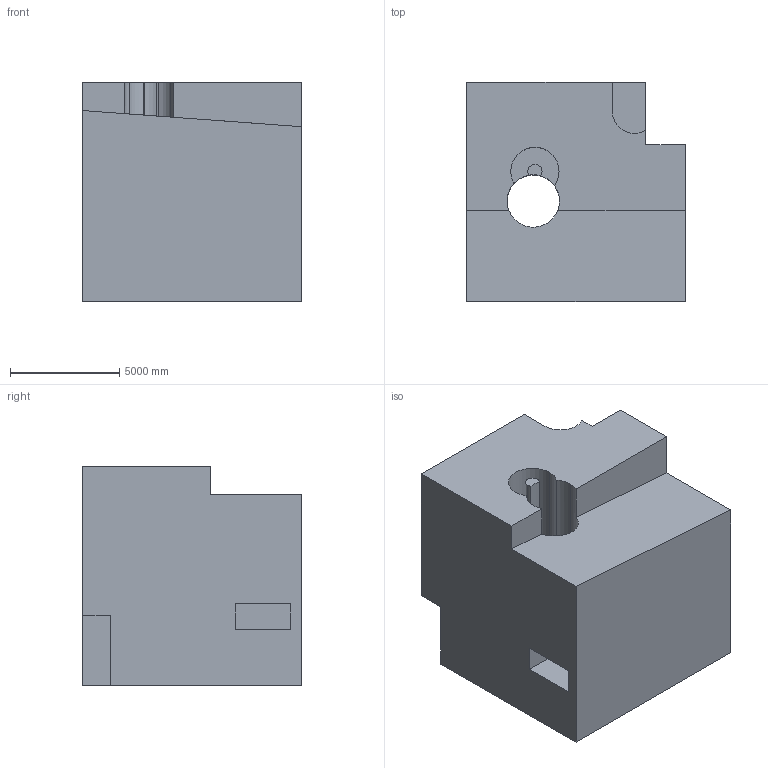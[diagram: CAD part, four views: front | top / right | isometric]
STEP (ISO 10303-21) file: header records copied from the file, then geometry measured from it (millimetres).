
FILE_DESCRIPTION (( 'STEP AP203' ), '1' );
FILE_NAME ('1686.STEP', '2022-08-25T15:28:39', ( 'user' ), ( '' ), 'SwSTEP 2.0', 'SolidWorks 2021', '' );
FILE_SCHEMA (( 'CONFIG_CONTROL_DESIGN' ));
Length unit declared in the file: centimetre
Products named in the file (1): 1686
Bounding box: 10000 x 10000 x 10000 mm (x, y, z)
Volume: 779093663759.9 mm3; surface area: 709227498.4 mm2
Topology: 1 solids, 1 shells, 32 faces, 90 edges, 60 vertices
Faces by surface type: plane 23, cylinder 9
Entity records: 1118 total; most frequent: CARTESIAN_POINT 186, ORIENTED_EDGE 180, DIRECTION 178, EDGE_CURVE 90, LINE 66, VECTOR 66, VERTEX_POINT 60, AXIS2_PLACEMENT_3D 56
